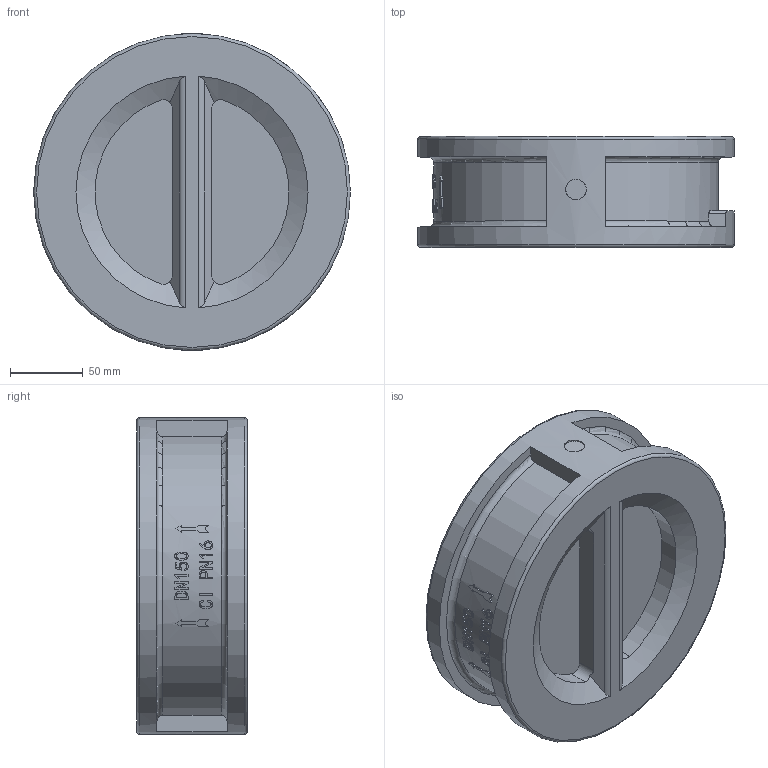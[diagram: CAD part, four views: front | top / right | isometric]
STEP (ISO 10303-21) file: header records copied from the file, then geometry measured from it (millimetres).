
FILE_DESCRIPTION(/* description */ ('STEP AP214'),/* implementation_level */ '2;1');
FILE_NAME(/* name */ 'RSV30 DN150.stp',/* time_stamp */ '2024-07-04T16:01:19+07:00',/* author */ ('Eva'),/* organization */ (''),/* preprocessor_version */ 'ST-DEVELOPER v20',/* originating_system */ 'Autodesk Inventor 2025',/* authorisation */ '');
FILE_SCHEMA (('AUTOMOTIVE_DESIGN { 1 0 10303 214 3 1 1 }'));
Length unit declared in the file: millimetre
Products named in the file (1): 150Ö¹»Ø
Bounding box: 217 x 76 x 217 mm (x, y, z)
Volume: 1308492.4 mm3; surface area: 185857.9 mm2
Topology: 1 solids, 1 shells, 198 faces, 513 edges, 342 vertices
Faces by surface type: plane 118, cylinder 39, bspline 32, torus 7, cone 2
Full cylindrical faces by diameter (mm): 14 x5, 160 x1, 167 x1, 217 x1
Entity records: 12679 total; most frequent: CARTESIAN_POINT 7899, ORIENTED_EDGE 1026, DIRECTION 910, EDGE_CURVE 513, VERTEX_POINT 342, AXIS2_PLACEMENT_3D 331, LINE 248, VECTOR 248
